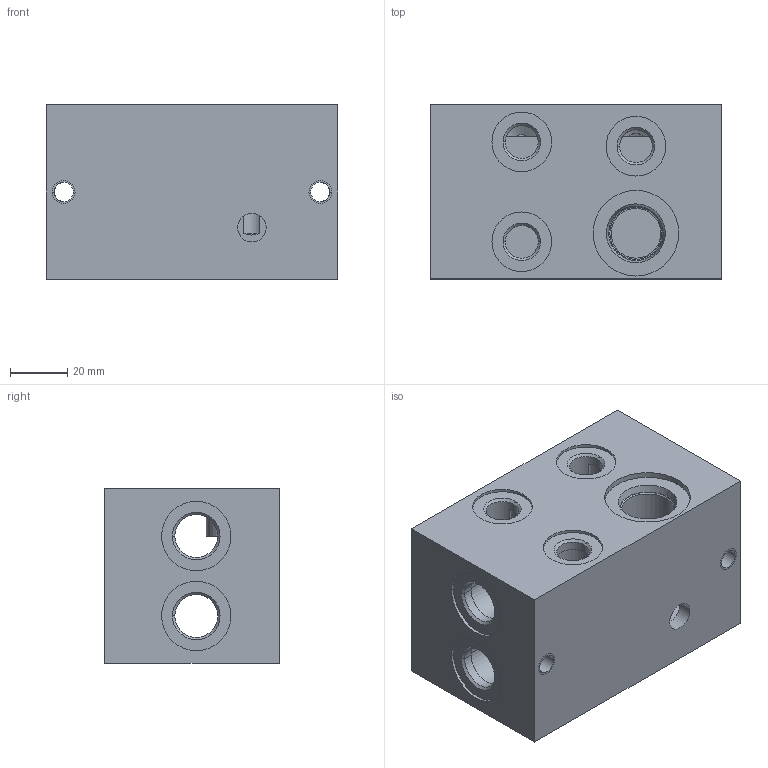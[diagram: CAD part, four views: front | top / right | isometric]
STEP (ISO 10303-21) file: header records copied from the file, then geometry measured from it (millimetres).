
FILE_DESCRIPTION((''),'2;1');
FILE_NAME('760_6910','2015-11-27T',('Ahcz.brigadnik05'),(''),'PRO/ENGINEER BY PARAMETRIC TECHNOLOGY CORPORATION, 2015110','PRO/ENGINEER BY PARAMETRIC TECHNOLOGY CORPORATION, 2015110','');
FILE_SCHEMA(('AUTOMOTIVE_DESIGN { 1 0 10303 214 1 1 1 1 }'));
Length unit declared in the file: millimetre
Products named in the file (1): 760_6910
Bounding box: 102 x 61 x 61 mm (x, y, z)
Volume: 151400.8 mm3; surface area: 64459.7 mm2
Topology: 1 solids, 19 shells, 184 faces, 986 edges, 877 vertices
Faces by surface type: cylinder 108, plane 44, cone 32
Entity records: 10718 total; most frequent: CARTESIAN_POINT 1957, DIRECTION 1607, ORIENTED_EDGE 954, VECTOR 665, LINE 665, EDGE_CURVE 513, AXIS2_PLACEMENT_3D 471, TRIMMED_CURVE 468
